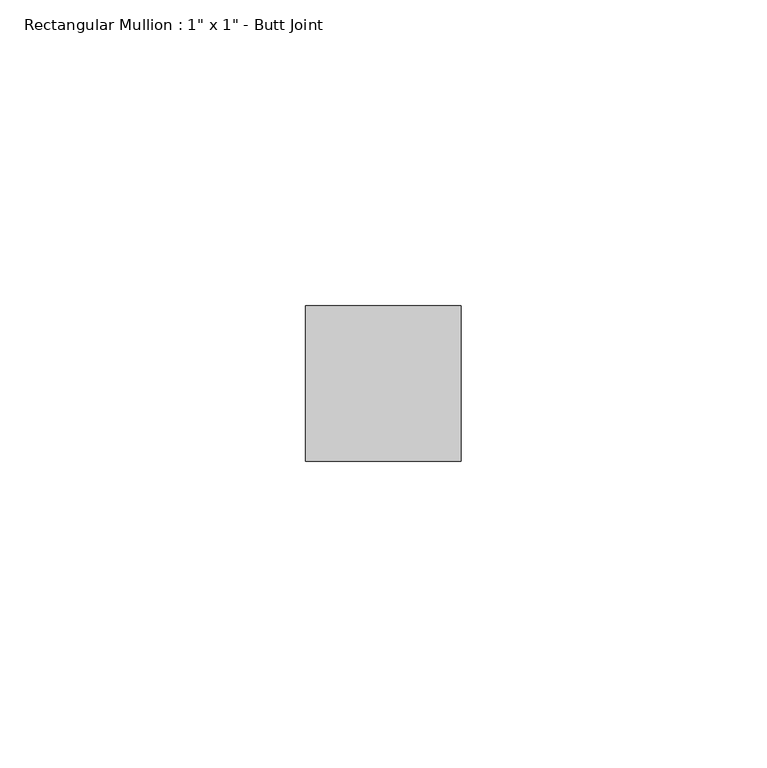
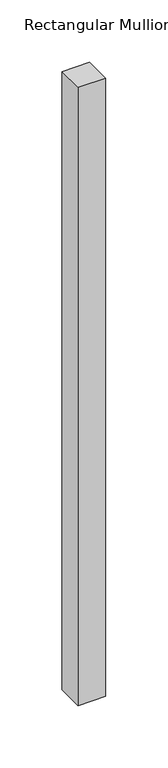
"""IFC4 building model written with IfcOpenShell, lengths in millimetres: member geometry."""

from ifc_helpers import new_model, si_unit, frame, origin, place, context, project, spatial, polyline, outline, extrude, source, transform, mapped, element, save


def member_5454a1e2(model_context):
    return source(origin(), model_context, "Body", "SweptSolid", [
        extrude(outline(polyline([(12.7, 12.7), (12.7, -12.7), (-12.7, -12.7), (-12.7, 12.7), (12.7, 12.7)])), frame((0.0, 0.0, -603.9314929), z_axis=(0.0, 0.0, 1.0), x_axis=(1.0, 0.0, 0.0)), (0.0, 0.0, 1.0), 603.9314929),
    ])


if __name__ == "__main__":
    model = new_model("IFC4")
    model_context = context("Model", 3, world=origin())
    ifc_project = project(units=[si_unit("LENGTHUNIT", "METRE", prefix="MILLI")], contexts=[model_context])
    site = spatial("IfcSite", under=ifc_project)
    building = spatial("IfcBuilding", under=site)
    placement = place(None, origin())
    member_shape = member_5454a1e2(model_context)
    element("IfcMember", 1, ObjectType="Rectangular Mullion : 1\" x 1\" - Butt Joint", at=placement, inside=building, context=model_context, shape_type="MappedRepresentation", body=[
        mapped(member_shape, transform((0.0, 0.0, 0.0), x_axis=(1.0, 0.0, 0.0), y_axis=(0.0, 1.0, 0.0), z_axis=(0.0, 0.0, 1.0))),
    ])
    save(model, "model.ifc")
